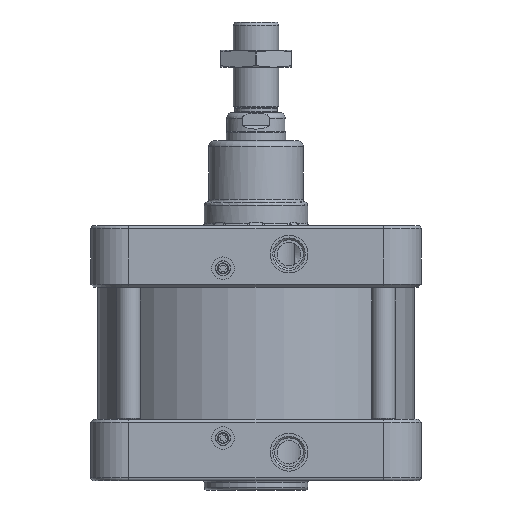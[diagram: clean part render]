
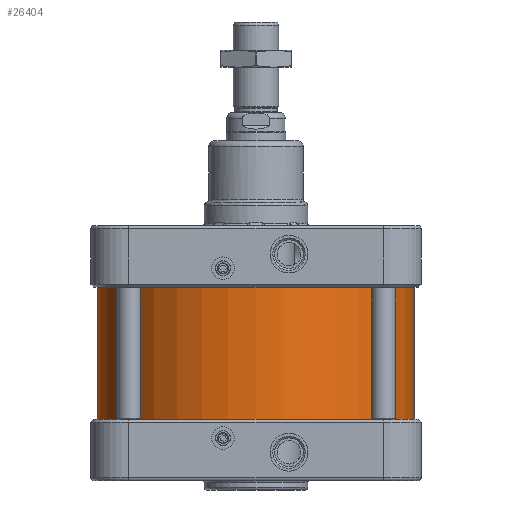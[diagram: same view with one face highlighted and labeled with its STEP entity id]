
A CAD part, front view. The second image highlights one B-rep face of the part: STEP entity #26404.
In plain terms, the highlighted cylindrical face has radius 168 mm (diameter 336 mm), a full revolution.
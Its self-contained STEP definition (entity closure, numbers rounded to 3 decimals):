
#2804=CIRCLE('',#29645,168.);
#2805=CIRCLE('',#29647,168.);
#3478=FACE_BOUND('',#7098,.T.);
#5147=FACE_OUTER_BOUND('',#7097,.T.);
#7097=EDGE_LOOP('',(#22547));
#7098=EDGE_LOOP('',(#22548));
#11979=VERTEX_POINT('',#64759);
#11980=VERTEX_POINT('',#64762);
#15511=EDGE_CURVE('',#11979,#11979,#2804,.T.);
#15512=EDGE_CURVE('',#11980,#11980,#2805,.T.);
#22547=ORIENTED_EDGE('',*,*,#15511,.T.);
#22548=ORIENTED_EDGE('',*,*,#15512,.T.);
#23070=CYLINDRICAL_SURFACE('',#29646,168.);
#26404=ADVANCED_FACE('',(#5147,#3478),#23070,.T.);
#29645=AXIS2_PLACEMENT_3D('',#64760,#36878,#36879);
#29646=AXIS2_PLACEMENT_3D('',#64761,#36880,#36881);
#29647=AXIS2_PLACEMENT_3D('',#64763,#36882,#36883);
#36878=DIRECTION('center_axis',(0.,0.,1.));
#36879=DIRECTION('ref_axis',(-1.,0.,0.));
#36880=DIRECTION('center_axis',(0.,0.,1.));
#36881=DIRECTION('ref_axis',(-1.,0.,0.));
#36882=DIRECTION('center_axis',(0.,0.,-1.));
#36883=DIRECTION('ref_axis',(-1.,0.,0.));
#64759=CARTESIAN_POINT('',(168.,0.,-70.));
#64760=CARTESIAN_POINT('Origin',(0.,0.,-70.));
#64761=CARTESIAN_POINT('Origin',(0.,0.,0.));
#64762=CARTESIAN_POINT('',(168.,0.,70.));
#64763=CARTESIAN_POINT('Origin',(0.,0.,70.));
